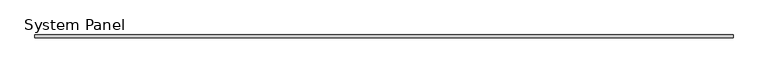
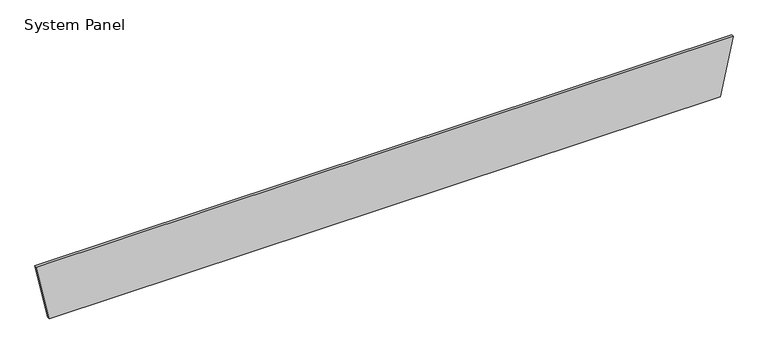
"""IFC4 building model written with IfcOpenShell, lengths in millimetres: plate geometry, System Panel : MetecnoPanel_50mm_Plain_Surfmist."""

from ifc_helpers import new_model, si_unit, frame, origin, place, context, project, spatial, polyline, outline, extrude, source, transform, mapped, element, save


def system_panel_b2905ae1(model_context):
    return source(origin(), model_context, "Body", "SweptSolid", [
        extrude(outline(polyline([(0.0, -6239.1323567), (0.0, 6239.1323567), (1100.0, 6478.2647134), (1100.0, -6478.2647134), (0.0, -6239.1323567)])), frame((0.0, -50.0, 0.0), z_axis=(0.0, 1.0, 0.0), x_axis=(0.0, 0.0, 1.0)), (0.0, 0.0, 1.0), 50.0),
    ])


if __name__ == "__main__":
    model = new_model("IFC4")
    model_context = context("Model", 3, world=origin())
    ifc_project = project(units=[si_unit("LENGTHUNIT", "METRE", prefix="MILLI")], contexts=[model_context])
    site = spatial("IfcSite", under=ifc_project)
    building = spatial("IfcBuilding", under=site)
    placement = place(None, origin())
    system_panel_shape = system_panel_b2905ae1(model_context)
    element("IfcPlate", 1, ObjectType="System Panel : MetecnoPanel_50mm_Plain_Surfmist", at=placement, inside=building, context=model_context, shape_type="MappedRepresentation", body=[
        mapped(system_panel_shape, transform((0.0, 0.0, 0.0), x_axis=(1.0, 0.0, 0.0), y_axis=(0.0, 1.0, 0.0), z_axis=(0.0, 0.0, 1.0))),
    ])
    save(model, "model.ifc")
